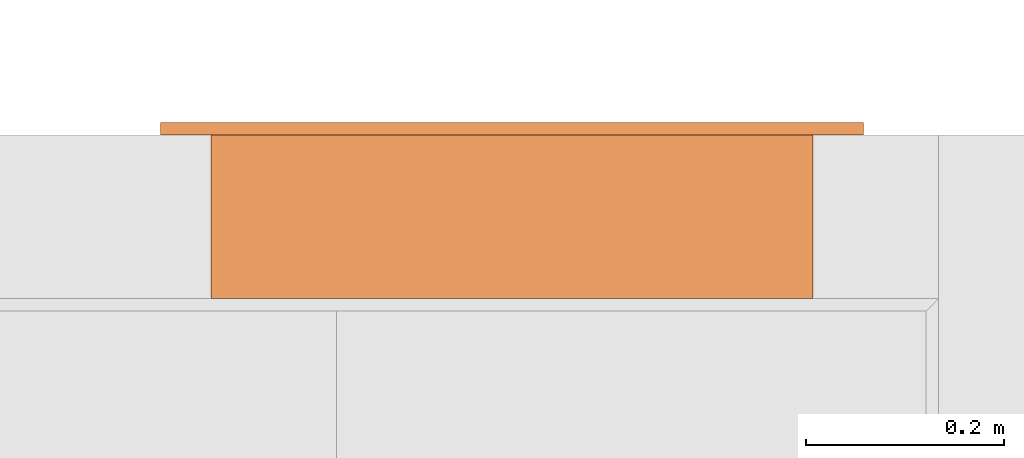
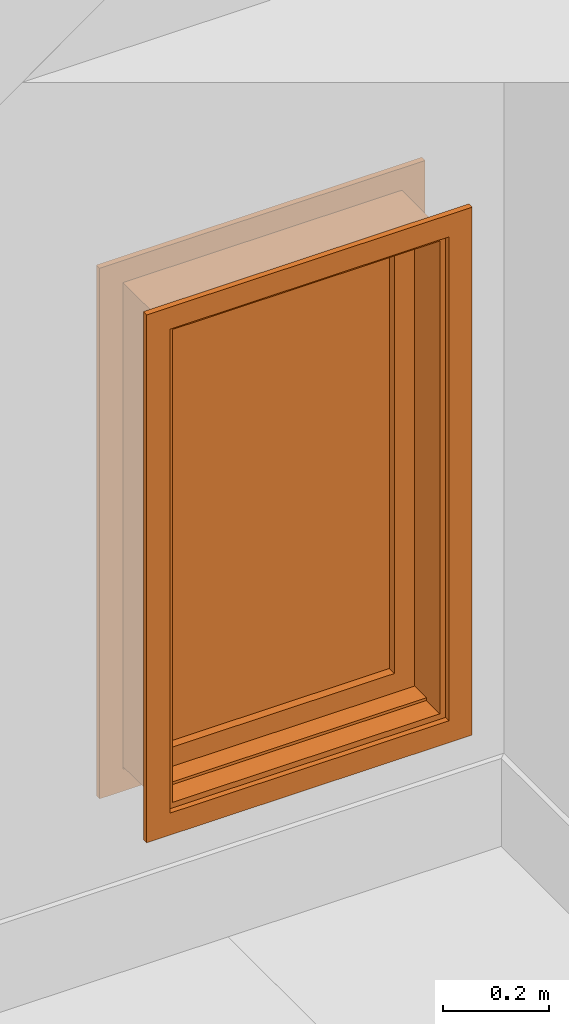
# One storey, part 66 of 103: 1 proxy.
"""IFC2X3 building model written with IfcOpenShell, lengths in inches."""

from ifc_helpers import new_model, entity, si_unit, converted_unit, derived_unit, money_unit, direction, frame, origin_with_axes, place, context, subcontext, project, spatial, faceted_brep, source, transform, mapped, type_object, element, save


model = new_model("IFC2X3")

# Units and contexts
model_context = context("Model", 3, precision=0.00039370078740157, world=origin_with_axes(), true_north=direction((0.0, 1.0)))
plan_context = context("Plan", 3, precision=0.00039370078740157, world=origin_with_axes(), true_north=direction((0.0, 1.0)))
body_context = subcontext(model_context, "Body", "Model", "MODEL_VIEW")
ifc_project = project(units=[converted_unit("LENGTHUNIT", "INCH", entity("IfcPositiveLengthMeasure", 0.0254), si_unit("LENGTHUNIT", "METRE"), dimensions=[1, 0, 0, 0, 0, 0, 0]), converted_unit("AREAUNIT", "SQUARE_FOOT", entity("IfcPositiveLengthMeasure", 0.09290304), si_unit("AREAUNIT", "SQUARE_METRE"), dimensions=[2, 0, 0, 0, 0, 0, 0]), si_unit("PLANEANGLEUNIT", "RADIAN"), si_unit("SOLIDANGLEUNIT", "STERADIAN"), money_unit("USD"), converted_unit("TIMEUNIT", "Year", entity("IfcTimeMeasure", 31557600.0), si_unit("TIMEUNIT", "SECOND"), dimensions=[0, 0, 1, 0, 0, 0, 0]), si_unit("MASSUNIT", "GRAM", prefix="KILO"), si_unit("THERMODYNAMICTEMPERATUREUNIT", "DEGREE_CELSIUS"), si_unit("LUMINOUSINTENSITYUNIT", "LUMEN"), si_unit("ENERGYUNIT", "JOULE", prefix="MEGA"), derived_unit("SPECIFICHEATCAPACITYUNIT", [(si_unit("ENERGYUNIT", "JOULE"), 1), (si_unit("MASSUNIT", "GRAM", prefix="KILO"), -1), (si_unit("THERMODYNAMICTEMPERATUREUNIT", "KELVIN"), -1)])], contexts=[model_context, plan_context])

# Site, building, storey
site_placement = place(None, origin_with_axes())
site = spatial("IfcSite", under=ifc_project, at=site_placement, Name="Site", CompositionType="ELEMENT")
building_placement = place(site_placement, origin_with_axes())
building = spatial("IfcBuilding", under=site, at=building_placement, Name="Building", CompositionType="ELEMENT")
storey_placement = place(building_placement, frame((0.0, 0.0, 127.9999999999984), z_axis=(0.0, 0.0, 1.0), x_axis=(1.0, 0.0, 0.0)))
storey = spatial("IfcBuildingStorey", under=building, at=storey_placement, Name="Second Floor", CompositionType="ELEMENT", Elevation=128.0)

# Proxy
building_element_proxy_type = type_object("IfcBuildingElementProxyType", Name="W Fixed", PredefinedType="NOTDEFINED")
shared_shape = source(origin_with_axes(), body_context, "Body", "Brep", [
    faceted_brep([(-11.99999999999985, -4.499999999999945, 0.0), (11.99999999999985, -4.499999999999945, 0.0), (11.99999999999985, -6.49999999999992, 0.0), (-11.99999999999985, -6.49999999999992, 0.0), (-11.99999999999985, -4.49999999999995, 43.99999999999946), (11.99999999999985, -4.49999999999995, 43.99999999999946), (-11.49999999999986, -4.499999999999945, 0.4999999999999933), (11.49999999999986, -4.499999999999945, 0.4999999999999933), (11.49999999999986, -4.49999999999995, 43.49999999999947), (-11.49999999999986, -4.49999999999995, 43.49999999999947), (11.99999999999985, -6.499999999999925, 43.99999999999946), (-11.99999999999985, -6.499999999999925, 43.99999999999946), (-11.49999999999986, -6.49999999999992, 0.4999999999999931), (-11.49999999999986, -6.499999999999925, 43.49999999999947), (11.49999999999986, -6.499999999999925, 43.49999999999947), (11.49999999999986, -6.49999999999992, 0.4999999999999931)], [[[0, 1, 2, 3]], [[0, 4, 5, 1], [6, 7, 8, 9]], [[1, 5, 10, 2]], [[3, 2, 10, 11], [12, 13, 14, 15]], [[4, 0, 3, 11]], [[5, 4, 11, 10]], [[7, 6, 12, 15]], [[8, 7, 15, 14]], [[9, 8, 14, 13]], [[6, 9, 13, 12]]]),
    faceted_brep([(-13.99999999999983, -6.999999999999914, -1.999999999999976), (-13.99999999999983, -6.499999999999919, -1.999999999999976), (-11.99999999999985, -6.49999999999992, 0.0), (-11.99999999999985, -6.999999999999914, 0.0), (-13.99999999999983, -6.999999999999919, 45.99999999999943), (-13.99999999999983, -6.499999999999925, 45.99999999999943), (-11.99999999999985, -6.499999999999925, 43.99999999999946), (-11.99999999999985, -6.999999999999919, 43.99999999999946)], [[[0, 1, 2, 3]], [[4, 5, 1, 0]], [[1, 5, 6, 2]], [[3, 2, 6, 7]], [[0, 3, 7, 4]], [[7, 6, 5, 4]]]),
    faceted_brep([(13.99999999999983, -6.999999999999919, 45.99999999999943), (13.99999999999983, -6.499999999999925, 45.99999999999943), (11.99999999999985, -6.499999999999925, 43.99999999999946), (11.99999999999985, -6.999999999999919, 43.99999999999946), (13.99999999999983, -6.999999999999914, -1.999999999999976), (13.99999999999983, -6.499999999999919, -1.999999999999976), (11.99999999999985, -6.49999999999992, 0.0), (11.99999999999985, -6.999999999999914, 0.0)], [[[0, 1, 2, 3]], [[4, 5, 1, 0]], [[1, 5, 6, 2]], [[3, 2, 6, 7]], [[0, 3, 7, 4]], [[7, 6, 5, 4]]]),
    faceted_brep([(13.99999999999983, -6.999999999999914, -1.999999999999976), (13.99999999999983, -6.499999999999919, -1.999999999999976), (11.99999999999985, -6.49999999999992, 0.0), (11.99999999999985, -6.999999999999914, 0.0), (-13.99999999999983, -6.999999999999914, -1.999999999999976), (-13.99999999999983, -6.499999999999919, -1.999999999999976), (-11.99999999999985, -6.49999999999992, 0.0), (-11.99999999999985, -6.999999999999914, 0.0)], [[[0, 1, 2, 3]], [[4, 5, 1, 0]], [[1, 5, 6, 2]], [[3, 2, 6, 7]], [[0, 3, 7, 4]], [[7, 6, 5, 4]]]),
    faceted_brep([(-13.99999999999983, -6.999999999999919, 45.99999999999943), (-13.99999999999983, -6.499999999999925, 45.99999999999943), (-11.99999999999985, -6.499999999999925, 43.99999999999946), (-11.99999999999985, -6.999999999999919, 43.99999999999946), (13.99999999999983, -6.999999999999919, 45.99999999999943), (13.99999999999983, -6.499999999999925, 45.99999999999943), (11.99999999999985, -6.499999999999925, 43.99999999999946), (11.99999999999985, -6.999999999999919, 43.99999999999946)], [[[0, 1, 2, 3]], [[4, 5, 1, 0]], [[1, 5, 6, 2]], [[3, 2, 6, 7]], [[0, 3, 7, 4]], [[7, 6, 5, 4]]]),
    faceted_brep([(-13.99999999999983, 0.4999999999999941, -2.249999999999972), (-11.99999999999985, 0.4999999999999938, -0.2499999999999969), (-11.99999999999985, 0.0, -0.249999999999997), (-13.99999999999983, 0.0, -2.249999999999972), (-13.99999999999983, 0.4999999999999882, 45.99999999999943), (-11.99999999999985, 0.4999999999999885, 43.99999999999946), (-11.99999999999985, 0.0, 43.99999999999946), (-13.99999999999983, 0.0, 45.99999999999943)], [[[0, 1, 2, 3]], [[0, 4, 5, 1]], [[1, 5, 6, 2]], [[3, 2, 6, 7]], [[4, 0, 3, 7]], [[5, 4, 7, 6]]]),
    faceted_brep([(13.99999999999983, 0.4999999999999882, 45.99999999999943), (11.99999999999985, 0.4999999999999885, 43.99999999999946), (11.99999999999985, 0.0, 43.99999999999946), (13.99999999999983, 0.0, 45.99999999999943), (13.99999999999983, 0.4999999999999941, -2.249999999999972), (11.99999999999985, 0.4999999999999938, -0.2499999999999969), (11.99999999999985, 0.0, -0.249999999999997), (13.99999999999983, 0.0, -2.249999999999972)], [[[0, 1, 2, 3]], [[0, 4, 5, 1]], [[1, 5, 6, 2]], [[3, 2, 6, 7]], [[4, 0, 3, 7]], [[5, 4, 7, 6]]]),
    faceted_brep([(13.99999999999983, 0.4999999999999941, -2.249999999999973), (11.99999999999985, 0.4999999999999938, -0.2499999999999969), (11.99999999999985, 0.0, -0.249999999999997), (13.99999999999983, 0.0, -2.249999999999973), (-13.99999999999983, 0.4999999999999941, -2.249999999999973), (-11.99999999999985, 0.4999999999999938, -0.2499999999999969), (-11.99999999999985, 0.0, -0.249999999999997), (-13.99999999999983, 0.0, -2.249999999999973)], [[[0, 1, 2, 3]], [[0, 4, 5, 1]], [[1, 5, 6, 2]], [[3, 2, 6, 7]], [[4, 0, 3, 7]], [[5, 4, 7, 6]]]),
    faceted_brep([(-13.99999999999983, 0.4999999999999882, 45.99999999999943), (-11.99999999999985, 0.4999999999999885, 43.99999999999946), (-11.99999999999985, 0.0, 43.99999999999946), (-13.99999999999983, 0.0, 45.99999999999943), (13.99999999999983, 0.4999999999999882, 45.99999999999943), (11.99999999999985, 0.4999999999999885, 43.99999999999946), (11.99999999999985, 0.0, 43.99999999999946), (13.99999999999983, 0.0, 45.99999999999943)], [[[0, 1, 2, 3]], [[0, 4, 5, 1]], [[1, 5, 6, 2]], [[3, 2, 6, 7]], [[4, 0, 3, 7]], [[5, 4, 7, 6]]]),
    faceted_brep([(-11.50039370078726, -4.499999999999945, 0.7539370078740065), (-11.50039370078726, -4.49999999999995, 43.49606299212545), (-11.99999999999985, -4.49999999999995, 43.49606299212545), (-11.99999999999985, -4.499999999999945, 0.7539370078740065), (-11.50039370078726, -2.749999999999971, 43.49606299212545), (-11.50039370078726, -2.749999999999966, 0.7539370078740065), (-11.74999999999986, -2.749999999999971, 43.49606299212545), (-11.74999999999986, 0.0, 43.49606299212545), (-11.99999999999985, 0.0, 43.49606299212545), (-11.99999999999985, 0.0, 0.7539370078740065), (-11.74999999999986, 0.0, 0.7539370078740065), (-11.74999999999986, -2.749999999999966, 0.7539370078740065)], [[[0, 1, 2, 3]], [[4, 1, 0, 5]], [[1, 4, 6, 7, 8, 2]], [[9, 3, 2, 8]], [[5, 0, 3, 9, 10, 11]], [[4, 5, 11, 6]], [[11, 10, 7, 6]], [[9, 8, 7, 10]]]),
    faceted_brep([(11.50039370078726, -2.749999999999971, 43.49606299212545), (11.50039370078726, -4.49999999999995, 43.49606299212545), (11.99999999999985, -4.49999999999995, 43.49606299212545), (11.99999999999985, 0.0, 43.49606299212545), (11.74999999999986, 0.0, 43.49606299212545), (11.74999999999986, -2.749999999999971, 43.49606299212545), (11.50039370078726, -4.499999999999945, 0.7539370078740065), (11.50039370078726, -2.749999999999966, 0.7539370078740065), (11.99999999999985, -4.499999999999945, 0.7539370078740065), (11.99999999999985, 0.0, 0.7539370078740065), (11.74999999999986, 0.0, 0.7539370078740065), (11.74999999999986, -2.749999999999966, 0.7539370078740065)], [[[0, 1, 2, 3, 4, 5]], [[6, 1, 0, 7]], [[1, 6, 8, 2]], [[3, 2, 8, 9]], [[3, 9, 10, 4]], [[11, 5, 4, 10]], [[7, 0, 5, 11]], [[6, 7, 11, 10, 9, 8]]]),
    faceted_brep([(11.50039370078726, -2.749999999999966, 0.7539370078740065), (11.50039370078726, -4.499999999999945, 0.7539370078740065), (11.99999999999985, -4.499999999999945, 0.7539370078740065), (11.99999999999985, 0.0, 0.7539370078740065), (11.74999999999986, 0.0, 0.7539370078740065), (11.74999999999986, -2.749999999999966, 0.7539370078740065), (11.50039370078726, -4.499999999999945, 0.7496062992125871), (11.50039370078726, -2.749999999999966, 0.7496062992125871), (-11.50039370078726, -4.499999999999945, 0.7496062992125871), (-11.50039370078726, -4.499999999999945, 0.7539370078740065), (-11.99999999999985, -4.499999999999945, 0.7539370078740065), (-11.99999999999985, -4.499999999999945, 0.0), (11.99999999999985, -4.499999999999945, 0.0), (11.99999999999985, 0.0, 0.0), (-11.99999999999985, 0.0, 0.0), (-11.99999999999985, 0.0, 0.7539370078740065), (-11.74999999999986, 0.0, 0.7539370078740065), (-11.74999999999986, 0.0, 0.4999999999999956), (11.74999999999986, 0.0, 0.4999999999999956), (11.74999999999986, -2.749999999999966, 0.4999999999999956), (-11.74999999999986, -2.749999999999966, 0.4999999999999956), (-11.74999999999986, -2.749999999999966, 0.7539370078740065), (-11.50039370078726, -2.749999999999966, 0.7539370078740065), (-11.50039370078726, -2.749999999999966, 0.7496062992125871)], [[[0, 1, 2, 3, 4, 5]], [[6, 1, 0, 7]], [[8, 9, 10, 11, 12, 2, 1, 6]], [[3, 2, 12, 13]], [[14, 15, 16, 17, 18, 4, 3, 13]], [[19, 5, 4, 18]], [[7, 0, 5, 19, 20, 21, 22, 23]], [[8, 6, 7, 23]], [[22, 9, 8, 23]], [[9, 22, 21, 16, 15, 10]], [[14, 11, 10, 15]], [[13, 12, 11, 14]], [[20, 17, 16, 21]], [[20, 19, 18, 17]]]),
    faceted_brep([(-11.50039370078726, -4.49999999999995, 43.49606299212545), (-11.50039370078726, -4.49999999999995, 43.50039370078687), (11.50039370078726, -4.49999999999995, 43.50039370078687), (11.50039370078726, -4.49999999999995, 43.49606299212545), (11.99999999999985, -4.49999999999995, 43.49606299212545), (11.99999999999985, -4.49999999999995, 43.99999999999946), (-11.99999999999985, -4.49999999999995, 43.99999999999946), (-11.99999999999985, -4.49999999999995, 43.49606299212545), (-11.50039370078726, -2.749999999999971, 43.49606299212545), (-11.50039370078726, -2.749999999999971, 43.50039370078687), (11.50039370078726, -2.749999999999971, 43.50039370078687), (11.50039370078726, -2.749999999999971, 43.49606299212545), (11.74999999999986, -2.749999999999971, 43.49606299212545), (11.74999999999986, 0.0, 43.49606299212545), (11.99999999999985, 0.0, 43.49606299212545), (11.99999999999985, 0.0, 43.99999999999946), (-11.99999999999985, 0.0, 43.99999999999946), (-11.99999999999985, 0.0, 43.49606299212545), (-11.74999999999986, 0.0, 43.49606299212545), (-11.74999999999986, -2.749999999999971, 43.49606299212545), (-11.74999999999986, -2.749999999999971, 43.74999999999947), (11.74999999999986, -2.749999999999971, 43.74999999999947), (11.74999999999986, 0.0, 43.74999999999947), (-11.74999999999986, 0.0, 43.74999999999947)], [[[0, 1, 2, 3, 4, 5, 6, 7]], [[1, 0, 8, 9]], [[2, 1, 9, 10]], [[3, 2, 10, 11]], [[3, 11, 12, 13, 14, 4]], [[15, 5, 4, 14]], [[16, 6, 5, 15]], [[17, 7, 6, 16]], [[8, 0, 7, 17, 18, 19]], [[9, 8, 19, 20, 21, 12, 11, 10]], [[12, 21, 22, 13]], [[13, 22, 23, 18, 17, 16, 15, 14]], [[20, 19, 18, 23]], [[21, 20, 23, 22]]]),
    faceted_brep([(-9.74999999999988, -2.749999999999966, 2.499999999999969), (-9.74999999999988, -1.874999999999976, 2.499999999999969), (-9.74999999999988, -1.874999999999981, 41.7499999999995), (-9.74999999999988, -2.749999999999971, 41.7499999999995), (-11.74999999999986, -2.749999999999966, 2.499999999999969), (-11.74999999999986, -1.874999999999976, 2.499999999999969), (-11.74999999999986, -1.874999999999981, 41.7499999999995), (-11.74999999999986, -2.749999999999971, 41.7499999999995)], [[[0, 1, 2, 3]], [[4, 5, 1, 0]], [[1, 5, 6, 2]], [[3, 2, 6, 7]], [[0, 3, 7, 4]], [[7, 6, 5, 4]]]),
    faceted_brep([(11.74999999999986, -2.749999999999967, 2.499999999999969), (11.74999999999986, -1.874999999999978, 2.499999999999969), (11.74999999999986, -1.874999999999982, 41.7499999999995), (11.74999999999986, -2.749999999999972, 41.7499999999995), (9.74999999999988, -2.749999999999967, 2.499999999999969), (9.74999999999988, -1.874999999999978, 2.499999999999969), (9.74999999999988, -1.874999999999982, 41.7499999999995), (9.74999999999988, -2.749999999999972, 41.7499999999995)], [[[0, 1, 2, 3]], [[4, 5, 1, 0]], [[1, 5, 6, 2]], [[3, 2, 6, 7]], [[0, 3, 7, 4]], [[7, 6, 5, 4]]]),
    faceted_brep([(11.74999999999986, -2.749999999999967, 0.4999999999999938), (11.74999999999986, -1.874999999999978, 0.4999999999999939), (11.74999999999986, -1.874999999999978, 2.499999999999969), (11.74999999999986, -2.749999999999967, 2.499999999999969), (-11.74999999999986, -2.749999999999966, 0.4999999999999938), (-11.74999999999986, -1.874999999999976, 0.4999999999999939), (-11.74999999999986, -1.874999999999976, 2.499999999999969), (-9.74999999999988, -1.874999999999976, 2.499999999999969), (-0.9999999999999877, -1.874999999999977, 2.499999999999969), (0.9999999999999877, -1.874999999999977, 2.499999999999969), (9.74999999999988, -1.874999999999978, 2.499999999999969), (9.74999999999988, -2.749999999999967, 2.499999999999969), (0.9999999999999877, -2.749999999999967, 2.499999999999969), (-0.9999999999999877, -2.749999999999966, 2.499999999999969), (-9.74999999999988, -2.749999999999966, 2.499999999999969), (-11.74999999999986, -2.749999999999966, 2.499999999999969)], [[[0, 1, 2, 3]], [[4, 5, 1, 0]], [[1, 5, 6, 7, 8, 9, 10, 2]], [[3, 2, 10, 11]], [[0, 3, 11, 12, 13, 14, 15, 4]], [[15, 6, 5, 4]], [[14, 7, 6, 15]], [[13, 8, 7, 14]], [[12, 9, 8, 13]], [[11, 10, 9, 12]]]),
    faceted_brep([(-11.74999999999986, -2.749999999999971, 43.74999999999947), (-11.74999999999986, -1.874999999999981, 43.74999999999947), (-11.74999999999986, -1.874999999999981, 41.7499999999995), (-11.74999999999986, -2.749999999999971, 41.7499999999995), (11.74999999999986, -2.749999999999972, 43.74999999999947), (11.74999999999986, -1.874999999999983, 43.74999999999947), (11.74999999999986, -1.874999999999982, 41.7499999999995), (9.74999999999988, -1.874999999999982, 41.7499999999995), (0.9999999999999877, -1.874999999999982, 41.7499999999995), (-0.9999999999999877, -1.874999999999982, 41.7499999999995), (-9.74999999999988, -1.874999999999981, 41.7499999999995), (-9.74999999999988, -2.749999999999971, 41.7499999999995), (-0.9999999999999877, -2.749999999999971, 41.7499999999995), (0.9999999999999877, -2.749999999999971, 41.7499999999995), (9.74999999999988, -2.749999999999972, 41.7499999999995), (11.74999999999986, -2.749999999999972, 41.7499999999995)], [[[0, 1, 2, 3]], [[4, 5, 1, 0]], [[1, 5, 6, 7, 8, 9, 10, 2]], [[3, 2, 10, 11]], [[0, 3, 11, 12, 13, 14, 15, 4]], [[15, 6, 5, 4]], [[14, 7, 6, 15]], [[13, 8, 7, 14]], [[12, 9, 8, 13]], [[11, 10, 9, 12]]]),
    faceted_brep([(-9.74999999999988, -1.874999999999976, 2.499999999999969), (-9.74999999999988, -0.9999999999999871, 2.499999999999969), (-9.74999999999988, -0.9999999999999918, 41.7499999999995), (-9.74999999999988, -1.874999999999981, 41.7499999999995), (-11.74999999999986, -1.874999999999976, 2.499999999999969), (-11.74999999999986, -0.9999999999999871, 2.499999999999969), (-11.74999999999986, -0.9999999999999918, 41.7499999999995), (-11.74999999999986, -1.874999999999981, 41.7499999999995)], [[[0, 1, 2, 3]], [[4, 5, 1, 0]], [[1, 5, 6, 2]], [[3, 2, 6, 7]], [[0, 3, 7, 4]], [[7, 6, 5, 4]]]),
    faceted_brep([(11.74999999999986, -1.874999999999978, 2.499999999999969), (11.74999999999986, -0.9999999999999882, 2.499999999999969), (11.74999999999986, -0.9999999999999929, 41.7499999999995), (11.74999999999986, -1.874999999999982, 41.7499999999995), (9.74999999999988, -1.874999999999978, 2.499999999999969), (9.74999999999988, -0.9999999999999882, 2.499999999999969), (9.74999999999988, -0.9999999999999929, 41.7499999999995), (9.74999999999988, -1.874999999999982, 41.7499999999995)], [[[0, 1, 2, 3]], [[4, 5, 1, 0]], [[1, 5, 6, 2]], [[3, 2, 6, 7]], [[0, 3, 7, 4]], [[7, 6, 5, 4]]]),
    faceted_brep([(11.74999999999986, -1.874999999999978, 0.4999999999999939), (11.74999999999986, -0.999999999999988, 0.499999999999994), (11.74999999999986, -0.9999999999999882, 2.499999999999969), (11.74999999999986, -1.874999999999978, 2.499999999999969), (-11.74999999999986, -1.874999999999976, 0.4999999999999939), (-11.74999999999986, -0.9999999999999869, 0.499999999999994), (-11.74999999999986, -0.9999999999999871, 2.499999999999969), (-9.74999999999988, -0.9999999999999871, 2.499999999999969), (-0.9999999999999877, -0.9999999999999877, 2.499999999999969), (0.9999999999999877, -0.9999999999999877, 2.499999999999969), (9.74999999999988, -0.9999999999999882, 2.499999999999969), (9.74999999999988, -1.874999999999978, 2.499999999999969), (0.9999999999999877, -1.874999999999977, 2.499999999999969), (-0.9999999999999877, -1.874999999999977, 2.499999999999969), (-9.74999999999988, -1.874999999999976, 2.499999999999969), (-11.74999999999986, -1.874999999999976, 2.499999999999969)], [[[0, 1, 2, 3]], [[4, 5, 1, 0]], [[1, 5, 6, 7, 8, 9, 10, 2]], [[3, 2, 10, 11]], [[0, 3, 11, 12, 13, 14, 15, 4]], [[15, 6, 5, 4]], [[14, 7, 6, 15]], [[13, 8, 7, 14]], [[12, 9, 8, 13]], [[11, 10, 9, 12]]]),
    faceted_brep([(-11.74999999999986, -1.874999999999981, 43.74999999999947), (-11.74999999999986, -0.9999999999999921, 43.74999999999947), (-11.74999999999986, -0.9999999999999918, 41.7499999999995), (-11.74999999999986, -1.874999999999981, 41.7499999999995), (11.74999999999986, -1.874999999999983, 43.74999999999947), (11.74999999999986, -0.9999999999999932, 43.74999999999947), (11.74999999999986, -0.9999999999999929, 41.7499999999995), (9.74999999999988, -0.9999999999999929, 41.7499999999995), (0.9999999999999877, -0.9999999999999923, 41.7499999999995), (-0.9999999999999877, -0.9999999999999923, 41.7499999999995), (-9.74999999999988, -0.9999999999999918, 41.7499999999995), (-9.74999999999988, -1.874999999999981, 41.7499999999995), (-0.9999999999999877, -1.874999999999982, 41.7499999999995), (0.9999999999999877, -1.874999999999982, 41.7499999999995), (9.74999999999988, -1.874999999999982, 41.7499999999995), (11.74999999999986, -1.874999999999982, 41.7499999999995)], [[[0, 1, 2, 3]], [[4, 5, 1, 0]], [[1, 5, 6, 7, 8, 9, 10, 2]], [[3, 2, 10, 11]], [[0, 3, 11, 12, 13, 14, 15, 4]], [[15, 6, 5, 4]], [[14, 7, 6, 15]], [[13, 8, 7, 14]], [[12, 9, 8, 13]], [[11, 10, 9, 12]]]),
    faceted_brep([(-9.74999999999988, -1.999999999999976, 2.499999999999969), (-9.74999999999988, -1.749999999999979, 2.499999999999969), (9.74999999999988, -1.749999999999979, 2.499999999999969), (9.74999999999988, -1.999999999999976, 2.499999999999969), (-9.74999999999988, -1.99999999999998, 41.7499999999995), (-9.74999999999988, -1.749999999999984, 41.7499999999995), (9.74999999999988, -1.749999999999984, 41.7499999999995), (9.74999999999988, -1.99999999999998, 41.7499999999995)], [[[0, 1, 2, 3]], [[4, 5, 1, 0]], [[1, 5, 6, 2]], [[3, 2, 6, 7]], [[0, 3, 7, 4]], [[7, 6, 5, 4]]]),
])
proxy_placement = place(storey_placement, frame((59.9999579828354, 570.0000000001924, 48.99999999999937), z_axis=(0.0, 0.0, 1.0), x_axis=(1.0, 0.0, 0.0)))
element("IfcBuildingElementProxy", 1, at=proxy_placement, inside=storey, type_object=building_element_proxy_type, Name="WD - 002", context=body_context, shape_type="MappedRepresentation", body=[
    mapped(shared_shape, transform((11.99999999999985, 6.499999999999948, 0.0))),
])

save(model, "model.ifc")
